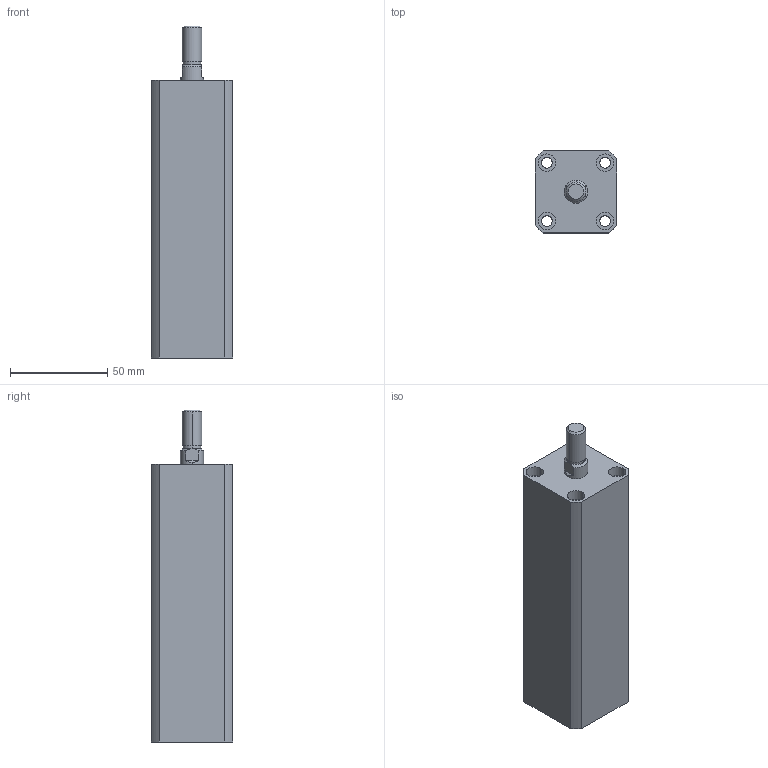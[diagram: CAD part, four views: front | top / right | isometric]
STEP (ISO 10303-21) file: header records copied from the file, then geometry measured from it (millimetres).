
FILE_DESCRIPTION (( 'STEP AP203' ), '1' );
FILE_NAME ('HTB-SDMB20-100W.STEP', '2019-10-09T00:11:57', ( '微软用户' ), ( '微软中国' ), 'SwSTEP 2.0', 'SolidWorks 2012', '' );
FILE_SCHEMA (( 'CONFIG_CONTROL_DESIGN' ));
Length unit declared in the file: millimetre
Products named in the file (3): HTB-SDMB20-100W; HTB-SDMB20-100W活塞杆; HTB-SDMB20-100掛极
Assembly tree (2 placements, depth 2):
  HTB-SDMB20-100W
    HTB-SDMB20-100掛极
    HTB-SDMB20-100W活塞杆
Bounding box: 42 x 42 x 171 mm (x, y, z)
Volume: 214134.8 mm3; surface area: 52036.9 mm2
Topology: 2 solids, 2 shells, 140 faces, 332 edges, 218 vertices
Faces by surface type: plane 66, cylinder 48, bspline 16, torus 6, cone 4
Entity records: 5129 total; most frequent: CARTESIAN_POINT 1587, ORIENTED_EDGE 664, DIRECTION 662, EDGE_CURVE 332, AXIS2_PLACEMENT_3D 241, VERTEX_POINT 218, VECTOR 180, LINE 180
